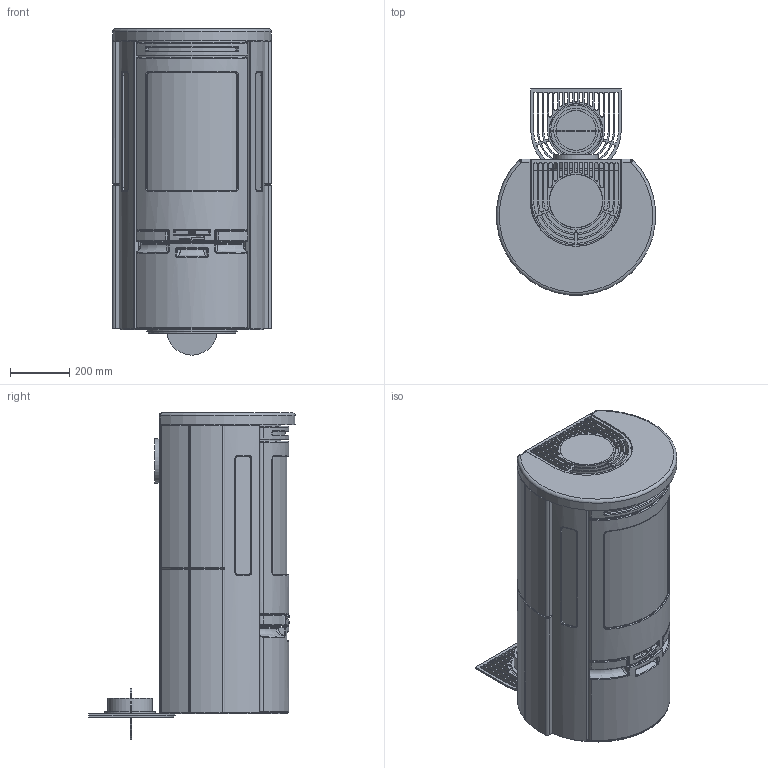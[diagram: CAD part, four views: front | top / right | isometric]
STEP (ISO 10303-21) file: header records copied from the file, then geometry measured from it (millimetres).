
FILE_DESCRIPTION( ( 'Unknown' ), '1' );
FILE_NAME( 'C:/Users/HAnilsd/AppData/Roaming/Unigraphics Solutions/Solid Edge/Insight/insight/insight/interior models/C560T Assembly.stp', 'Unknown', ( 'Unknown' ), ( 'Unknown' ), 'PSStep 13.0', 'Unknown', ' ' );
FILE_SCHEMA( ( 'AUTOMOTIVE_DESIGN { 1 0 10303 214 1 1 1 1 }' ) );
Length unit declared in the file: millimetre
Products named in the file (29): Assem1; Glass C500; Sheet Metal Plinth C500; Drawer C500; Lattice C500; Sheet Metal Lid C500; Bottom Cast Iron C500; Inside Shielding C550; Side Glas C500; Soapstone Set C560T; Rear C560T; Rear C560K; Connection; Insert C500; Foot C500; Lid; Door C500; Fire C500; Sides C550; Vermiculite C500
Bounding box: 535.17 x 694.34 x 1097 mm (x, y, z)
Volume: 329381588.9 mm3; surface area: 22839279.1 mm2
Topology: 59 solids, 59 shells, 4381 faces, 11423 edges, 7386 vertices
Faces by surface type: plane 2434, cylinder 873, extrusion 516, bspline 336, torus 140, sphere 44, cone 38
Full cylindrical faces by diameter (mm): 62 x2, 66 x2, 134 x3, 150 x3, 170 x5, 172 x4, 178 x4, 180 x2, 202 x2, 212 x2
Entity records: 132693 total; most frequent: CARTESIAN_POINT 65007, ORIENTED_EDGE 11284, DIRECTION 8569, EDGE_CURVE 5642, VERTEX_POINT 3668, VECTOR 3003, AXIS2_PLACEMENT_3D 2783, LINE 2745
